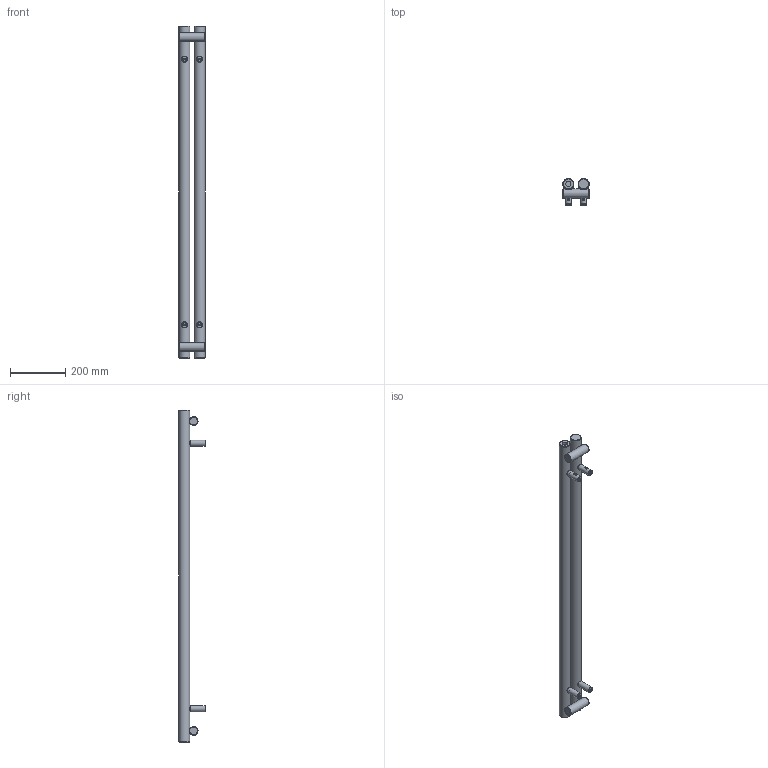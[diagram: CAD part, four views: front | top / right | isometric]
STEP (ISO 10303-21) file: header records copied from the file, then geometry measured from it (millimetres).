
FILE_DESCRIPTION(/* description */ (''),/* implementation_level */ '2;1');
FILE_NAME(/* name */ 'Z:\R\G\P\RGP116 - Grzejniki Geyser\Work\Inventor\Circolo (Rolo V, Rolo H)\ROLO-ROOM\Marketing\Zaokrąglone\WGROR120009-SX-CK-(Z).stp',/* time_stamp */ '2024-01-19T11:47:33+01:00',/* author */ ('NowAd'),/* organization */ (''),/* preprocessor_version */ 'ST-DEVELOPER v17.2',/* originating_system */ 'Autodesk Inventor 2019',/* authorisation */ '');
FILE_SCHEMA (('AUTOMOTIVE_DESIGN { 1 0 10303 214 3 1 1 }'));
Length unit declared in the file: millimetre
Products named in the file (3): WGROR120009-SX-CK-(Z); PGROR120009-SX-CK-(K); CK-V-fi40 marketing
Assembly tree (5 placements, depth 2):
  WGROR120009-SX-CK-(Z)
    PGROR120009-SX-CK-(K)
    CK-V-fi40 marketing  x4
Bounding box: 95 x 96.5 x 1200 mm (x, y, z)
Volume: 3208998.8 mm3; surface area: 359689.6 mm2
Topology: 5 solids, 5 shells, 298 faces, 759 edges, 508 vertices
Faces by surface type: plane 127, cylinder 71, cone 60, torus 36, bspline 4
Full cylindrical faces by diameter (mm): 4.134 x4, 4.48 x4, 6.4 x4, 10 x4, 12 x4, 15.834 x4, 16 x4, 18.631 x3, 22 x4, 32 x2, 40 x2
Entity records: 4725 total; most frequent: CARTESIAN_POINT 1894, DIRECTION 596, ORIENTED_EDGE 556, EDGE_CURVE 278, AXIS2_PLACEMENT_3D 262, VERTEX_POINT 190, EDGE_LOOP 142, CIRCLE 135
